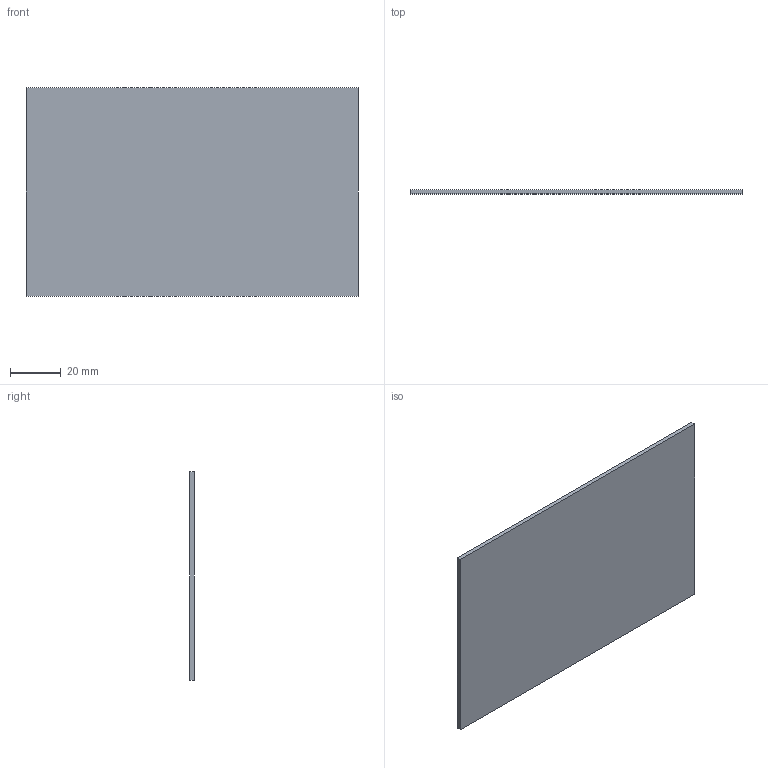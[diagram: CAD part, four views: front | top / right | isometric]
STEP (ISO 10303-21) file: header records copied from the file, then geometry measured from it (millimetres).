
FILE_DESCRIPTION (( 'STEP AP214' ), '1' );
FILE_NAME ('Tapadera de caja.STEP', '2019-05-12T01:59:13', ( '' ), ( '' ), 'SwSTEP 2.0', 'SolidWorks 2018', '' );
FILE_SCHEMA (( 'AUTOMOTIVE_DESIGN' ));
Length unit declared in the file: millimetre
Products named in the file (1): Tapadera de caja
Bounding box: 130.5 x 1.6 x 82 mm (x, y, z)
Volume: 17121.6 mm3; surface area: 22082 mm2
Topology: 1 solids, 1 shells, 6 faces, 12 edges, 8 vertices
Faces by surface type: plane 6
Entity records: 190 total; most frequent: CARTESIAN_POINT 27, DIRECTION 26, ORIENTED_EDGE 24, VECTOR 12, LINE 12, EDGE_CURVE 12, VERTEX_POINT 8, AXIS2_PLACEMENT_3D 7
